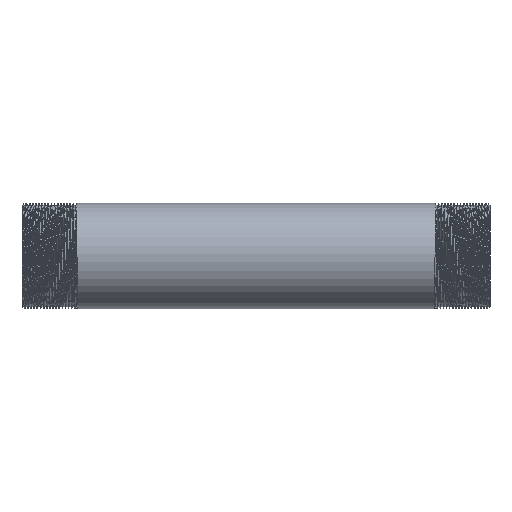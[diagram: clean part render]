
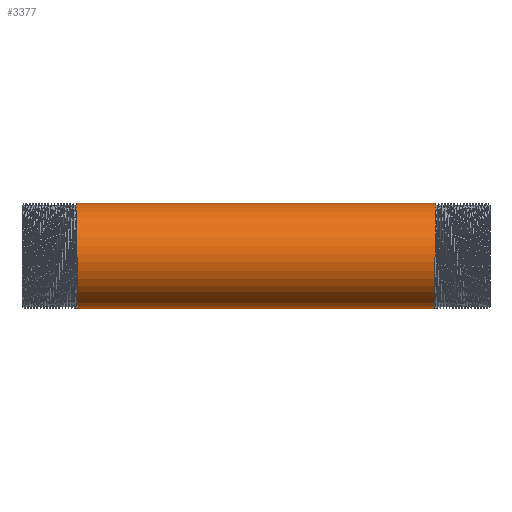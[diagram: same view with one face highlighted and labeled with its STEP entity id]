
A CAD part, front view. The second image highlights one B-rep face of the part: STEP entity #3377.
In plain terms, the highlighted cylindrical face has radius 16.85 mm (diameter 33.7 mm), a partial arc.
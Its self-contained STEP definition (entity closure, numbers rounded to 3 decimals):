
#114 = CARTESIAN_POINT ( 'NONE',  ( -149.494, 0., -16.85 ) ) ;
#1048 = ORIENTED_EDGE ( 'NONE', *, *, #2989, .T. ) ;
#1095 = CARTESIAN_POINT ( 'NONE',  ( -149.494, 0., 16.85 ) ) ;
#1373 = CARTESIAN_POINT ( 'NONE',  ( -57.563, -6.979, 16.85 ) ) ;
#1560 = CARTESIAN_POINT ( 'NONE',  ( 57.438, -16.85, 6.979 ) ) ;
#2316 = CYLINDRICAL_SURFACE ( 'NONE', #6337, 16.85 ) ;
#2399 = CARTESIAN_POINT ( 'NONE',  ( -57.188, -6.979, -16.85 ) ) ;
#2739 = CARTESIAN_POINT ( 'NONE',  ( 57.188, -6.979, -16.85 ) ) ;
#2989 = EDGE_CURVE ( 'NONE', #7552, #9619, #3181, .T. ) ;
#3181 =( BOUNDED_CURVE ( )  B_SPLINE_CURVE ( 2, ( #13448, #2739, #7585, #7506, #12280, #1560, #12356, #9932, #14695 ),
 .UNSPECIFIED., .F., .T. ) 
 B_SPLINE_CURVE_WITH_KNOTS ( ( 3, 2, 2, 2, 3 ),
 ( 0., 0.006, 0.011, 0.017, 0.023 ),
 .UNSPECIFIED. ) 
 CURVE ( )  GEOMETRIC_REPRESENTATION_ITEM ( )  RATIONAL_B_SPLINE_CURVE ( ( 1., 0.924, 1., 0.924, 1., 0.924, 1., 0.924, 1. ) ) 
 REPRESENTATION_ITEM ( '' )  );
#3267 = VECTOR ( 'NONE', #15317, 1000. ) ;
#3377 = ADVANCED_FACE ( 'NONE', ( #4499 ), #2316, .T. ) ;
#3567 = DIRECTION ( 'NONE',  ( -1., 0., 0. ) ) ;
#3861 =( BOUNDED_CURVE ( )  B_SPLINE_CURVE ( 2, ( #10998, #2399, #8491, #7238, #12017, #14286, #14510, #1373, #11945 ),
 .UNSPECIFIED., .F., .F. ) 
 B_SPLINE_CURVE_WITH_KNOTS ( ( 3, 2, 2, 2, 3 ),
 ( 0., 0.006, 0.011, 0.017, 0.023 ),
 .UNSPECIFIED. ) 
 CURVE ( )  GEOMETRIC_REPRESENTATION_ITEM ( )  RATIONAL_B_SPLINE_CURVE ( ( 1., 0.924, 1., 0.924, 1., 0.924, 1., 0.924, 1. ) ) 
 REPRESENTATION_ITEM ( '' )  );
#4499 = FACE_OUTER_BOUND ( 'NONE', #10715, .T. ) ;
#4763 = LINE ( 'NONE', #1095, #3267 ) ;
#5110 = VECTOR ( 'NONE', #9680, 1000. ) ;
#5817 = CARTESIAN_POINT ( 'NONE',  ( -149.494, 0., 0. ) ) ;
#6015 = ORIENTED_EDGE ( 'NONE', *, *, #10349, .F. ) ;
#6037 = CARTESIAN_POINT ( 'NONE',  ( -57.125, 0., -16.85 ) ) ;
#6152 = EDGE_CURVE ( 'NONE', #9619, #8324, #4763, .T. ) ;
#6337 = AXIS2_PLACEMENT_3D ( 'NONE', #5817, #3567, #10450 ) ;
#6773 = EDGE_CURVE ( 'NONE', #7552, #14909, #10854, .T. ) ;
#7238 = CARTESIAN_POINT ( 'NONE',  ( -57.313, -16.85, -6.979 ) ) ;
#7506 = CARTESIAN_POINT ( 'NONE',  ( 57.313, -16.85, -6.979 ) ) ;
#7552 = VERTEX_POINT ( 'NONE', #12343 ) ;
#7585 = CARTESIAN_POINT ( 'NONE',  ( 57.25, -11.915, -11.915 ) ) ;
#8324 = VERTEX_POINT ( 'NONE', #10990 ) ;
#8491 = CARTESIAN_POINT ( 'NONE',  ( -57.25, -11.915, -11.915 ) ) ;
#9619 = VERTEX_POINT ( 'NONE', #12365 ) ;
#9680 = DIRECTION ( 'NONE',  ( -1., 0., 0. ) ) ;
#9932 = CARTESIAN_POINT ( 'NONE',  ( 57.563, -6.979, 16.85 ) ) ;
#10349 = EDGE_CURVE ( 'NONE', #14909, #8324, #3861, .T. ) ;
#10450 = DIRECTION ( 'NONE',  ( 0., 0., 1. ) ) ;
#10715 = EDGE_LOOP ( 'NONE', ( #13619, #1048, #11503, #6015 ) ) ;
#10854 = LINE ( 'NONE', #114, #5110 ) ;
#10990 = CARTESIAN_POINT ( 'NONE',  ( -57.625, 0., 16.85 ) ) ;
#10998 = CARTESIAN_POINT ( 'NONE',  ( -57.125, 0., -16.85 ) ) ;
#11503 = ORIENTED_EDGE ( 'NONE', *, *, #6152, .T. ) ;
#11945 = CARTESIAN_POINT ( 'NONE',  ( -57.625, 0., 16.85 ) ) ;
#12017 = CARTESIAN_POINT ( 'NONE',  ( -57.375, -16.85, 0. ) ) ;
#12280 = CARTESIAN_POINT ( 'NONE',  ( 57.375, -16.85, 0. ) ) ;
#12343 = CARTESIAN_POINT ( 'NONE',  ( 57.125, 0., -16.85 ) ) ;
#12356 = CARTESIAN_POINT ( 'NONE',  ( 57.5, -11.915, 11.915 ) ) ;
#12365 = CARTESIAN_POINT ( 'NONE',  ( 57.625, 0., 16.85 ) ) ;
#13448 = CARTESIAN_POINT ( 'NONE',  ( 57.125, 0., -16.85 ) ) ;
#13619 = ORIENTED_EDGE ( 'NONE', *, *, #6773, .F. ) ;
#14286 = CARTESIAN_POINT ( 'NONE',  ( -57.438, -16.85, 6.979 ) ) ;
#14510 = CARTESIAN_POINT ( 'NONE',  ( -57.5, -11.915, 11.915 ) ) ;
#14695 = CARTESIAN_POINT ( 'NONE',  ( 57.625, 0., 16.85 ) ) ;
#14909 = VERTEX_POINT ( 'NONE', #6037 ) ;
#15317 = DIRECTION ( 'NONE',  ( -1., 0., 0. ) ) ;
